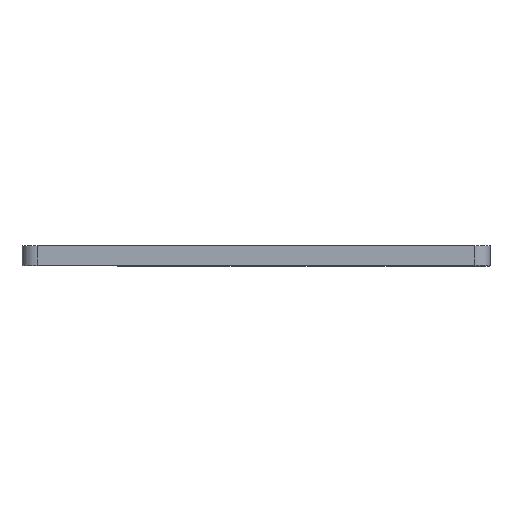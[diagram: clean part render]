
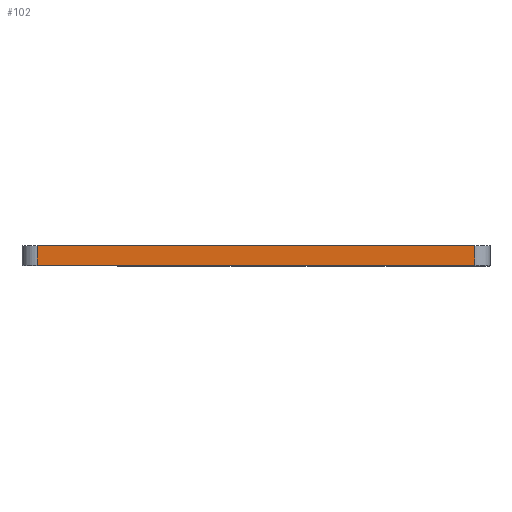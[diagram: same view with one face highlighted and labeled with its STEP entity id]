
A CAD part, top view. The second image highlights one B-rep face of the part: STEP entity #102.
In plain terms, the highlighted planar face has unit normal (0, 0, 1).
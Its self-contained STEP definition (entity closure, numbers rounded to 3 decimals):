
#5 = ORIENTED_EDGE ( 'NONE', *, *, #244, .F. ) ;
#9 = CARTESIAN_POINT ( 'NONE',  ( 28.506, -1., 21.25 ) ) ;
#30 = CARTESIAN_POINT ( 'NONE',  ( 28.506, -1., 21.25 ) ) ;
#74 = VECTOR ( 'NONE', #286, 1000. ) ;
#78 = EDGE_LOOP ( 'NONE', ( #537, #5, #612, #534 ) ) ;
#90 = DIRECTION ( 'NONE',  ( 0., 0., 1. ) ) ;
#102 = ADVANCED_FACE ( 'NONE', ( #545 ), #366, .T. ) ;
#120 = VERTEX_POINT ( 'NONE', #481 ) ;
#143 = CARTESIAN_POINT ( 'NONE',  ( 28.506, 3., 21.25 ) ) ;
#175 = LINE ( 'NONE', #567, #288 ) ;
#210 = VERTEX_POINT ( 'NONE', #344 ) ;
#214 = VERTEX_POINT ( 'NONE', #616 ) ;
#227 = CARTESIAN_POINT ( 'NONE',  ( 28.506, -1., 21.25 ) ) ;
#244 = EDGE_CURVE ( 'NONE', #519, #214, #175, .T. ) ;
#286 = DIRECTION ( 'NONE',  ( 0., 1., 0. ) ) ;
#288 = VECTOR ( 'NONE', #679, 1000. ) ;
#338 = DIRECTION ( 'NONE',  ( 1., 0., 0. ) ) ;
#341 = CARTESIAN_POINT ( 'NONE',  ( 118.287, -1., 21.25 ) ) ;
#344 = CARTESIAN_POINT ( 'NONE',  ( 118.287, -1., 21.25 ) ) ;
#352 = LINE ( 'NONE', #341, #74 ) ;
#356 = EDGE_CURVE ( 'NONE', #519, #210, #552, .T. ) ;
#366 = PLANE ( 'NONE',  #457 ) ;
#409 = VECTOR ( 'NONE', #338, 1000. ) ;
#414 = VECTOR ( 'NONE', #640, 1000. ) ;
#457 = AXIS2_PLACEMENT_3D ( 'NONE', #30, #90, #477 ) ;
#477 = DIRECTION ( 'NONE',  ( 1., 0., 0. ) ) ;
#481 = CARTESIAN_POINT ( 'NONE',  ( 118.287, 3., 21.25 ) ) ;
#519 = VERTEX_POINT ( 'NONE', #227 ) ;
#534 = ORIENTED_EDGE ( 'NONE', *, *, #597, .T. ) ;
#537 = ORIENTED_EDGE ( 'NONE', *, *, #716, .F. ) ;
#545 = FACE_OUTER_BOUND ( 'NONE', #78, .T. ) ;
#552 = LINE ( 'NONE', #9, #409 ) ;
#554 = LINE ( 'NONE', #143, #414 ) ;
#567 = CARTESIAN_POINT ( 'NONE',  ( 28.506, -1., 21.25 ) ) ;
#597 = EDGE_CURVE ( 'NONE', #210, #120, #352, .T. ) ;
#612 = ORIENTED_EDGE ( 'NONE', *, *, #356, .T. ) ;
#616 = CARTESIAN_POINT ( 'NONE',  ( 28.506, 3., 21.25 ) ) ;
#640 = DIRECTION ( 'NONE',  ( 1., 0., 0. ) ) ;
#679 = DIRECTION ( 'NONE',  ( 0., 1., 0. ) ) ;
#716 = EDGE_CURVE ( 'NONE', #214, #120, #554, .T. ) ;
